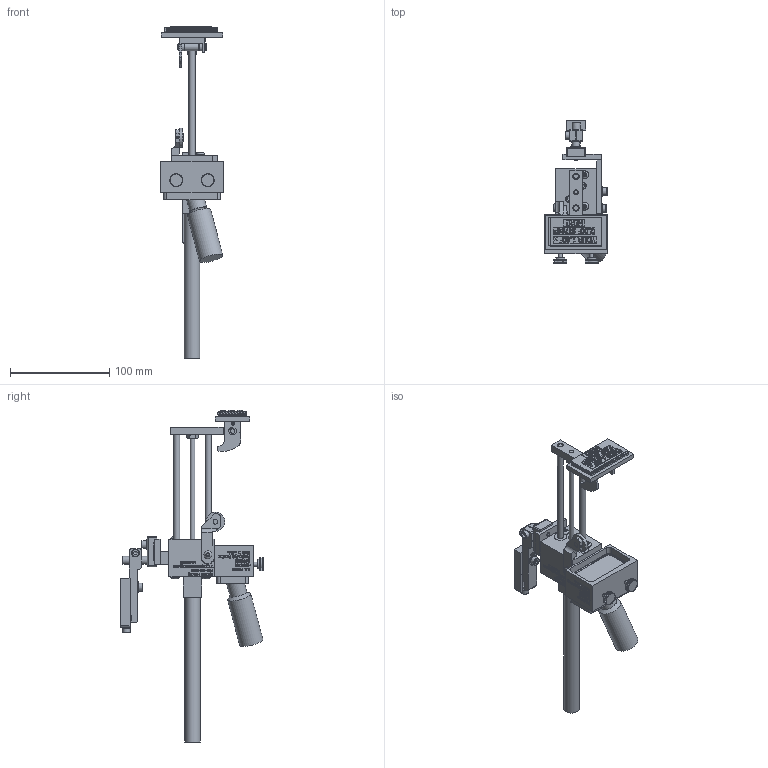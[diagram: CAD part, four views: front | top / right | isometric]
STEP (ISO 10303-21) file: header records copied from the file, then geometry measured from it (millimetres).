
FILE_DESCRIPTION((''),'2;1');
FILE_NAME('C:\Documents and Settings\Ron\My Documents\Inventor\Sprinter Drawing\Machines in Inventor\Model 816\Type\Ext Str\E2\Brkt\Ext\Model 816 ES 2 Ext w brkt.stp','2009-01-22T07:22:13',('Ron'),(''),'Autodesk Inventor 2008','Autodesk Inventor 2008','');
FILE_SCHEMA(('AUTOMOTIVE_DESIGN { 1 0 10303 214 1 1 1 1 }'));
Length unit declared in the file: inch
Products named in the file (1): Model 816  ES 2 Ext w brkt
Bounding box: 63.5 x 144.17 x 335.1 mm (x, y, z)
Volume: 283304.3 mm3; surface area: 95625.4 mm2
Topology: 26 solids, 26 shells, 6740 faces, 16801 edges, 10428 vertices
Faces by surface type: plane 4663, bspline 1457, cylinder 535, cone 66, torus 15, sphere 4
Full cylindrical faces by diameter (mm): 2.54 x2, 2.845 x1, 3.175 x1, 4.064 x2, 4.166 x3, 4.699 x3, 4.75 x2, 4.826 x9, 5.08 x1, 5.156 x3, 6.223 x2, 6.325 x2, 6.35 x2, 6.604 x1, 6.68 x1, 6.858 x2, 7.62 x2, 7.925 x11, 7.938 x1, 9.017 x1, 9.525 x2, 10.312 x4, 10.922 x1, 15.494 x1, 17.526 x1, 19.05 x1, 24.13 x1
Entity records: 210675 total; most frequent: CARTESIAN_POINT 58158, ORIENTED_EDGE 32980, DIRECTION 25543, EDGE_CURVE 16490, VECTOR 12249, LINE 12249, VERTEX_POINT 10323, EDGE_LOOP 7369
